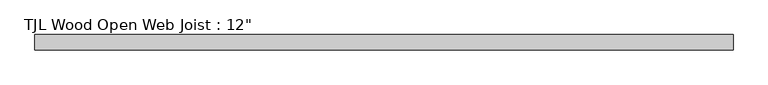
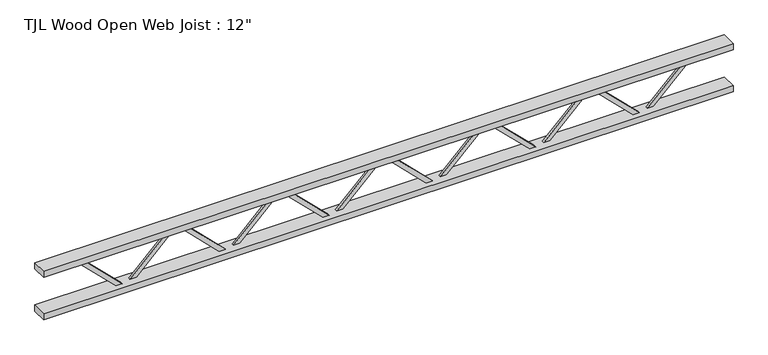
"""IFC4 building model written with IfcOpenShell, lengths in millimetres: beam geometry."""

import ifcopenshell
import ifcopenshell.guid

model = None  # the IFC model being written
_history = None  # IfcOwnerHistory: only IFC2X3 demands one
_inside = {}  # id of a spatial element -> (the spatial element, [elements in it])
_under = {}  # id of a project, library or spatial element -> (it, [spatial elements below it])
_declared = {}  # id of a project -> (the project, [libraries it declares])
_typed = {}  # id of a type object -> (the type object, [elements of that type])
_made_of = {}  # id of a material, layer set ... -> (it, [elements and type objects made of it])


def new_model(schema):
    """Start an empty IFC model of exactly this schema.

    Asked for "IFC4X3", IfcOpenShell would pick the latest addendum, in which some entities
    have other attributes; the version numbers below select the first issue.
    IFC2X3 requires an IfcOwnerHistory on every rooted entity: one is made here for all.
    """
    global model, _history
    if schema == "IFC4X3":
        model = ifcopenshell.file(schema_version=(4, 3, 0, 0))
    else:
        model = ifcopenshell.file(schema=schema)
    _inside.clear()
    _under.clear()
    _declared.clear()
    _typed.clear()
    _made_of.clear()
    _history = None
    if model.schema == "IFC2X3":
        org = make("IfcOrganization", Name="unknown")
        user = make(
            "IfcPersonAndOrganization",
            ThePerson=make("IfcPerson", FamilyName="unknown"),
            TheOrganization=org,
        )
        app = make(
            "IfcApplication",
            ApplicationDeveloper=org,
            Version="unknown",
            ApplicationFullName="unknown",
            ApplicationIdentifier="unknown",
        )
        _history = make(
            "IfcOwnerHistory",
            OwningUser=user,
            OwningApplication=app,
            ChangeAction="ADDED",
            CreationDate=0,
        )
    return model


def make(cls, **values):
    """One entity of the class cls with the attributes given. An attribute that is None is left unset."""
    return model.create_entity(
        cls, **{name: value for name, value in values.items() if value is not None}
    )


def rooted(cls, **values):
    """An entity with a GlobalId (a new one), such as an element, a storey or a relation."""
    return make(cls, GlobalId=ifcopenshell.guid.new(), OwnerHistory=_history, **values)


def si_unit(unit_type, name, prefix=None):
    """IfcSIUnit, for example si_unit("LENGTHUNIT", "METRE", prefix="MILLI")."""
    return make("IfcSIUnit", UnitType=unit_type, Prefix=prefix, Name=name)


def assignment(units):
    """IfcUnitAssignment: the units of a project."""
    return None if units is None else make("IfcUnitAssignment", Units=units)


def point(xyz):
    """IfcCartesianPoint."""
    return None if xyz is None else make("IfcCartesianPoint", Coordinates=xyz)


def direction(xyz):
    """IfcDirection."""
    return None if xyz is None else make("IfcDirection", DirectionRatios=xyz)


def frame(location, z_axis=None, x_axis=None):
    """IfcAxis2Placement3D, a coordinate frame: its origin and axes. An axis left out is left unset."""
    return make(
        "IfcAxis2Placement3D",
        Location=point(location),
        Axis=direction(z_axis),
        RefDirection=direction(x_axis),
    )


def origin():
    """The frame at (0, 0, 0) with its axes left unset."""
    return frame((0.0, 0.0, 0.0))


def place(relative_to, where):
    """IfcLocalPlacement: puts the frame where relative to a parent placement (None: the world)."""
    return make(
        "IfcLocalPlacement", PlacementRelTo=relative_to, RelativePlacement=where
    )


def context(
    kind, dimensions, precision=None, world=None, true_north=None, identifier=None
):
    """IfcGeometricRepresentationContext, for example the 3D "Model" context."""
    return make(
        "IfcGeometricRepresentationContext",
        ContextIdentifier=identifier,
        ContextType=kind,
        CoordinateSpaceDimension=dimensions,
        Precision=precision,
        WorldCoordinateSystem=world,
        TrueNorth=true_north,
    )


def project(units=None, contexts=None):
    """IfcProject with its units and contexts."""
    return rooted(
        "IfcProject",
        Name="project",
        RepresentationContexts=contexts,
        UnitsInContext=assignment(units),
    )


def spatial(cls, under=None, at=None, **own):
    """A site, building, storey or space (cls), placed at a placement, below another one or the project."""
    s = rooted(cls, ObjectPlacement=at, **own)
    if under is not None:
        _under.setdefault(under.id(), (under, []))[1].append(s)
    return s


def polyline(points):
    """IfcPolyline through the points."""
    return make("IfcPolyline", Points=[point(p) for p in points])


def outline(outer, holes=None, kind="AREA"):
    """IfcArbitraryClosedProfileDef: a profile drawn as a closed curve; with holes, ...WithVoids."""
    if holes is None:
        return make("IfcArbitraryClosedProfileDef", ProfileType=kind, OuterCurve=outer)
    return make(
        "IfcArbitraryProfileDefWithVoids",
        ProfileType=kind,
        OuterCurve=outer,
        InnerCurves=holes,
    )


def extrude(swept, where, along, depth):
    """IfcExtrudedAreaSolid: the profile swept, set in the frame where, extruded along a direction by depth."""
    return make(
        "IfcExtrudedAreaSolid",
        SweptArea=swept,
        Position=where,
        ExtrudedDirection=direction(along),
        Depth=depth,
    )


def shape(context_of_items, identifier, shape_type, items):
    """IfcShapeRepresentation: the items that make up one representation, for example the "Body"."""
    return make(
        "IfcShapeRepresentation",
        ContextOfItems=context_of_items,
        RepresentationIdentifier=identifier,
        RepresentationType=shape_type,
        Items=items,
    )


def source(mapping_origin, context_of_items, identifier, shape_type, items):
    """IfcRepresentationMap: a shape defined once, which mapped items show again and again."""
    return make(
        "IfcRepresentationMap",
        MappingOrigin=mapping_origin,
        MappedRepresentation=shape(context_of_items, identifier, shape_type, items),
    )


def transform(
    local_origin,
    x_axis=None,
    y_axis=None,
    z_axis=None,
    scale=None,
    scale2=None,
    scale3=None,
    uniform=True,
):
    """IfcCartesianTransformationOperator3D, or its non-uniform kind. x_axis, y_axis, z_axis: its Axis1, 2, 3."""
    if uniform:
        return make(
            "IfcCartesianTransformationOperator3D",
            Axis1=direction(x_axis),
            Axis2=direction(y_axis),
            LocalOrigin=point(local_origin),
            Scale=scale,
            Axis3=direction(z_axis),
        )
    return make(
        "IfcCartesianTransformationOperator3DnonUniform",
        Axis1=direction(x_axis),
        Axis2=direction(y_axis),
        LocalOrigin=point(local_origin),
        Scale=scale,
        Axis3=direction(z_axis),
        Scale2=scale2,
        Scale3=scale3,
    )


def mapped(mapping_source, mapping_target):
    """IfcMappedItem: shows the shape of a source again, moved by a transform."""
    return make(
        "IfcMappedItem", MappingSource=mapping_source, MappingTarget=mapping_target
    )


def made_of(thing, what):
    """Note that an element or type object is made of a material, layer set ...; save() writes the relation."""
    if what is not None:
        _made_of.setdefault(what.id(), (what, []))[1].append(thing)
    return thing


def element(
    cls,
    number,
    at=None,
    inside=None,
    cuts=None,
    type_object=None,
    material=None,
    context=None,
    identifier="Body",
    shape_type=None,
    held_by="IfcProductDefinitionShape",
    body=None,
    shapes=None,
    **own,
):
    """One element of the class cls, such as IfcWall. Its Tag is "e" and its number.

    at: its placement. inside: the storey or other place that contains it. cuts: it is an
    opening in that element (IfcRelVoidsElement). A single representation is given by context,
    identifier, shape_type and body (its items); several are given by shapes. held_by: the class
    of the entity that holds the representations. save() writes the other relations.
    """
    e = rooted(cls, Tag="e%d" % number, ObjectPlacement=at, **own)
    if body is not None:
        shapes = [shape(context, identifier, shape_type, body)]
    if shapes is not None:
        e.Representation = make(held_by, Representations=shapes)
    if inside is not None:
        _inside.setdefault(inside.id(), (inside, []))[1].append(e)
    if cuts is not None:
        rooted(
            "IfcRelVoidsElement", RelatingBuildingElement=cuts, RelatedOpeningElement=e
        )
    if type_object is not None:
        _typed.setdefault(type_object.id(), (type_object, []))[1].append(e)
    return made_of(e, material)


def aggregate(whole, parts):
    """IfcRelAggregates: a whole, such as a stair, and the parts it consists of."""
    return rooted("IfcRelAggregates", RelatingObject=whole, RelatedObjects=parts)


def save(model, path):
    """Write the relations noted so far, then the file.

    IfcRelAggregates (storeys below a building ...), IfcRelContainedInSpatialStructure (elements
    in a storey), IfcRelDefinesByType, IfcRelAssociatesMaterial and IfcRelDeclares: one each for
    every whole, place, type object, material and project.
    """
    for whole, parts in _under.values():
        aggregate(whole, parts)
    for where, things in _inside.values():
        rooted(
            "IfcRelContainedInSpatialStructure",
            RelatedElements=things,
            RelatingStructure=where,
        )
    for kind, things in _typed.values():
        rooted("IfcRelDefinesByType", RelatedObjects=things, RelatingType=kind)
    for what, things in _made_of.values():
        rooted("IfcRelAssociatesMaterial", RelatedObjects=things, RelatingMaterial=what)
    for by, libraries in _declared.values():
        rooted("IfcRelDeclares", RelatingContext=by, RelatedDefinitions=libraries)
    model.write(path)


def beam_b5a0a8b9(model_context):
    return source(origin(), model_context, "Body", "SweptSolid", [
        extrude(outline(polyline([(119.0625, 1221.3166667), (144.4625, 1221.3166667), (144.4625, 1203.4079995), (-119.0625, 936.1788328), (-119.0625, 890.5875), (-144.4625, 890.5875), (-144.4625, 946.5961672), (119.0625, 1213.8253338), (119.0625, 1221.3166667)])), frame((0.0, 0.0, 0.0), z_axis=(0.0, 1.0, 0.0), x_axis=(0.0, 0.0, 1.0)), (0.0, 0.0, 1.0), 12.7),
        extrude(outline(polyline([(144.4625, 610.6583333), (119.0625, 610.6583333), (119.0625, 618.1496662), (-144.4625, 885.3788328), (-144.4625, 941.3875), (-119.0625, 941.3875), (-119.0625, 895.7961672), (144.4625, 628.5670005), (144.4625, 610.6583333)])), frame((0.0, -12.7, 0.0), z_axis=(0.0, 1.0, 0.0), x_axis=(0.0, 0.0, 1.0)), (0.0, 0.0, 1.0), 12.7),
        extrude(outline(polyline([(119.0625, 610.6583333), (144.4625, 610.6583333), (144.4625, 592.7496662), (-119.0625, 325.5204995), (-119.0625, 279.9291667), (-144.4625, 279.9291667), (-144.4625, 335.9378338), (119.0625, 603.1670005), (119.0625, 610.6583333)])), frame((0.0, 0.0, 0.0), z_axis=(0.0, 1.0, 0.0), x_axis=(0.0, 0.0, 1.0)), (0.0, 0.0, 1.0), 12.7),
        extrude(outline(polyline([(144.4625, 0.0), (119.0625, 0.0), (119.0625, 7.4913328), (-144.4625, 274.7204995), (-144.4625, 330.7291667), (-119.0625, 330.7291667), (-119.0625, 285.1378338), (144.4625, 17.9086672), (144.4625, 0.0)])), frame((0.0, -12.7, 0.0), z_axis=(0.0, 1.0, 0.0), x_axis=(0.0, 0.0, 1.0)), (0.0, 0.0, 1.0), 12.7),
        extrude(outline(polyline([(119.0625, 0.0), (144.4625, 0.0), (144.4625, -17.9086672), (-119.0625, -285.1378338), (-119.0625, -330.7291667), (-144.4625, -330.7291667), (-144.4625, -274.7204995), (119.0625, -7.4913328), (119.0625, 0.0)])), frame((0.0, 0.0, 0.0), z_axis=(0.0, 1.0, 0.0), x_axis=(0.0, 0.0, 1.0)), (0.0, 0.0, 1.0), 12.7),
        extrude(outline(polyline([(144.4625, -610.6583333), (119.0625, -610.6583333), (119.0625, -603.1670005), (-144.4625, -335.9378338), (-144.4625, -279.9291667), (-119.0625, -279.9291667), (-119.0625, -325.5204995), (144.4625, -592.7496662), (144.4625, -610.6583333)])), frame((0.0, -12.7, 0.0), z_axis=(0.0, 1.0, 0.0), x_axis=(0.0, 0.0, 1.0)), (0.0, 0.0, 1.0), 12.7),
        extrude(outline(polyline([(119.0625, -610.6583333), (144.4625, -610.6583333), (144.4625, -628.5670005), (-119.0625, -895.7961672), (-119.0625, -941.3875), (-144.4625, -941.3875), (-144.4625, -885.3788328), (119.0625, -618.1496662), (119.0625, -610.6583333)])), frame((0.0, 0.0, 0.0), z_axis=(0.0, 1.0, 0.0), x_axis=(0.0, 0.0, 1.0)), (0.0, 0.0, 1.0), 12.7),
        extrude(outline(polyline([(144.4625, -1221.3166667), (119.0625, -1221.3166667), (119.0625, -1213.8253338), (-144.4625, -946.5961672), (-144.4625, -890.5875), (-119.0625, -890.5875), (-119.0625, -936.1788328), (144.4625, -1203.4079995), (144.4625, -1221.3166667)])), frame((0.0, -12.7, 0.0), z_axis=(0.0, 1.0, 0.0), x_axis=(0.0, 0.0, 1.0)), (0.0, 0.0, 1.0), 12.7),
        extrude(outline(polyline([(119.0625, 1831.975), (144.4625, 1831.975), (144.4625, 1814.0663328), (-119.0625, 1546.8371662), (-119.0625, 1501.2458333), (-144.4625, 1501.2458333), (-144.4625, 1557.2545005), (119.0625, 1824.4836672), (119.0625, 1831.975)])), frame((0.0, 0.0, 0.0), z_axis=(0.0, 1.0, 0.0), x_axis=(0.0, 0.0, 1.0)), (0.0, 0.0, 1.0), 12.7),
        extrude(outline(polyline([(144.4625, 1221.3166667), (119.0625, 1221.3166667), (119.0625, 1228.8079995), (-144.4625, 1496.0371662), (-144.4625, 1552.0458333), (-119.0625, 1552.0458333), (-119.0625, 1506.4545005), (144.4625, 1239.2253338), (144.4625, 1221.3166667)])), frame((0.0, -12.7, 0.0), z_axis=(0.0, 1.0, 0.0), x_axis=(0.0, 0.0, 1.0)), (0.0, 0.0, 1.0), 12.7),
        extrude(outline(polyline([(119.0625, -1221.3166667), (144.4625, -1221.3166667), (144.4625, -1239.2253338), (-119.0625, -1506.4545005), (-119.0625, -1552.0458333), (-144.4625, -1552.0458333), (-144.4625, -1496.0371662), (119.0625, -1228.8079995), (119.0625, -1221.3166667)])), frame((0.0, 0.0, 0.0), z_axis=(0.0, 1.0, 0.0), x_axis=(0.0, 0.0, 1.0)), (0.0, 0.0, 1.0), 12.7),
        extrude(outline(polyline([(144.4625, -1831.975), (119.0625, -1831.975), (119.0625, -1824.4836672), (-144.4625, -1557.2545005), (-144.4625, -1501.2458333), (-119.0625, -1501.2458333), (-119.0625, -1546.8371662), (144.4625, -1814.0663328), (144.4625, -1831.975)])), frame((0.0, -12.7, 0.0), z_axis=(0.0, 1.0, 0.0), x_axis=(0.0, 0.0, 1.0)), (0.0, 0.0, 1.0), 12.7),
        extrude(outline(polyline([(2035.175, 44.45), (2035.175, -44.45), (-2035.175, -44.45), (-2035.175, 44.45), (2035.175, 44.45)])), frame((0.0, 0.0, 112.7125), z_axis=(0.0, 0.0, 1.0), x_axis=(1.0, 0.0, 0.0)), (0.0, 0.0, 1.0), 38.1),
        extrude(outline(polyline([(2035.175, 44.45), (2035.175, -44.45), (-2035.175, -44.45), (-2035.175, 44.45), (2035.175, 44.45)])), frame((0.0, 0.0, -150.8125), z_axis=(0.0, 0.0, 1.0), x_axis=(1.0, 0.0, 0.0)), (0.0, 0.0, 1.0), 38.1),
    ])


if __name__ == "__main__":
    model = new_model("IFC4")
    model_context = context("Model", 3, world=origin())
    ifc_project = project(units=[si_unit("LENGTHUNIT", "METRE", prefix="MILLI")], contexts=[model_context])
    site = spatial("IfcSite", under=ifc_project)
    building = spatial("IfcBuilding", under=site)
    placement = place(None, origin())
    beam_shape = beam_b5a0a8b9(model_context)
    element("IfcBeam", 1, ObjectType="TJL Wood Open Web Joist : 12\"", at=placement, inside=building, context=model_context, shape_type="MappedRepresentation", body=[
        mapped(beam_shape, transform((0.0, 0.0, 0.0), x_axis=(1.0, 0.0, 0.0), y_axis=(0.0, 1.0, 0.0), z_axis=(0.0, 0.0, 1.0))),
    ])
    save(model, "model.ifc")
